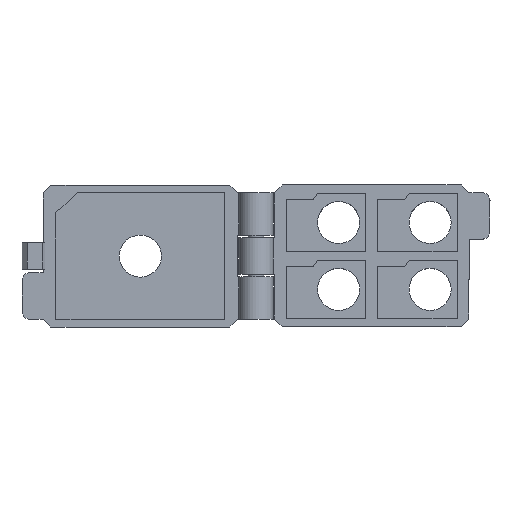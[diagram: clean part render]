
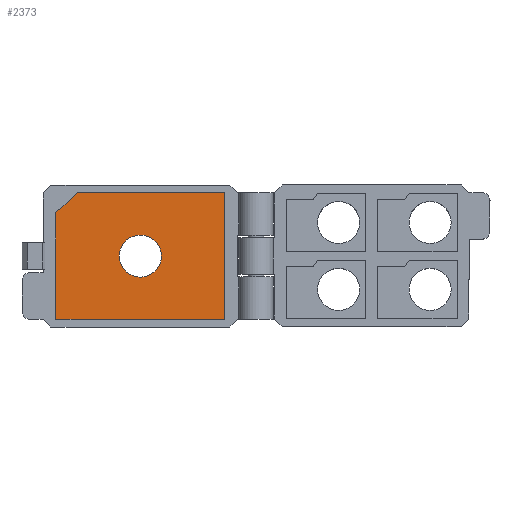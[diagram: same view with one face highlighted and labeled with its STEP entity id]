
A CAD part, top view. The second image highlights one B-rep face of the part: STEP entity #2373.
In plain terms, the highlighted planar face has unit normal (0, 0, 1).
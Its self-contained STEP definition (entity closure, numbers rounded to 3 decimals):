
#47=FACE_BOUND('',#366,.T.);
#113=CIRCLE('',#2560,4.);
#217=FACE_OUTER_BOUND('',#365,.T.);
#365=EDGE_LOOP('',(#2094,#2095,#2096,#2097,#2098));
#366=EDGE_LOOP('',(#2099));
#646=LINE('',#3845,#927);
#647=LINE('',#3847,#928);
#648=LINE('',#3849,#929);
#649=LINE('',#3851,#930);
#650=LINE('',#3852,#931);
#927=VECTOR('',#3155,10.);
#928=VECTOR('',#3156,10.);
#929=VECTOR('',#3157,10.);
#930=VECTOR('',#3158,10.);
#931=VECTOR('',#3159,10.);
#1159=VERTEX_POINT('',#3843);
#1160=VERTEX_POINT('',#3844);
#1161=VERTEX_POINT('',#3846);
#1162=VERTEX_POINT('',#3848);
#1163=VERTEX_POINT('',#3850);
#1164=VERTEX_POINT('',#3853);
#1479=EDGE_CURVE('',#1159,#1160,#646,.T.);
#1480=EDGE_CURVE('',#1161,#1160,#647,.T.);
#1481=EDGE_CURVE('',#1162,#1161,#648,.T.);
#1482=EDGE_CURVE('',#1163,#1162,#649,.T.);
#1483=EDGE_CURVE('',#1163,#1159,#650,.T.);
#1484=EDGE_CURVE('',#1164,#1164,#113,.T.);
#2094=ORIENTED_EDGE('',*,*,#1479,.T.);
#2095=ORIENTED_EDGE('',*,*,#1480,.F.);
#2096=ORIENTED_EDGE('',*,*,#1481,.F.);
#2097=ORIENTED_EDGE('',*,*,#1482,.F.);
#2098=ORIENTED_EDGE('',*,*,#1483,.T.);
#2099=ORIENTED_EDGE('',*,*,#1484,.T.);
#2256=PLANE('',#2559);
#2373=ADVANCED_FACE('',(#217,#47),#2256,.T.);
#2559=AXIS2_PLACEMENT_3D('',#3842,#3153,#3154);
#2560=AXIS2_PLACEMENT_3D('',#3854,#3160,#3161);
#3153=DIRECTION('center_axis',(0.,0.,
1.));
#3154=DIRECTION('ref_axis',(-1.,0.,0.));
#3155=DIRECTION('',(0.,-1.,0.));
#3156=DIRECTION('',(-1.,0.,0.));
#3157=DIRECTION('',(-0.725,-0.689,0.));
#3158=DIRECTION('',(0.,-1.,0.));
#3159=DIRECTION('',(-1.,0.,0.));
#3160=DIRECTION('center_axis',(0.,0.,
-1.));
#3161=DIRECTION('ref_axis',(0.,-1.,0.));
#3842=CARTESIAN_POINT('Origin',(0.95,-1.438,0.95));
#3843=CARTESIAN_POINT('',(0.95,-1.438,0.95));
#3844=CARTESIAN_POINT('',(0.95,-25.538,0.95));
#3845=CARTESIAN_POINT('',(0.95,-18.927,0.95));
#3846=CARTESIAN_POINT('',(29.023,-25.538,0.95));
#3847=CARTESIAN_POINT('',(29.023,-25.538,0.95));
#3848=CARTESIAN_POINT('',(33.05,-21.707,0.95));
#3849=CARTESIAN_POINT('',(33.05,-21.707,0.95));
#3850=CARTESIAN_POINT('',(33.05,-1.438,0.95));
#3851=CARTESIAN_POINT('',(33.05,-18.927,0.95));
#3852=CARTESIAN_POINT('',(33.05,-1.438,0.95));
#3853=CARTESIAN_POINT('',(17.,-9.488,0.95));
#3854=CARTESIAN_POINT('Origin',(17.,-13.488,0.95));
